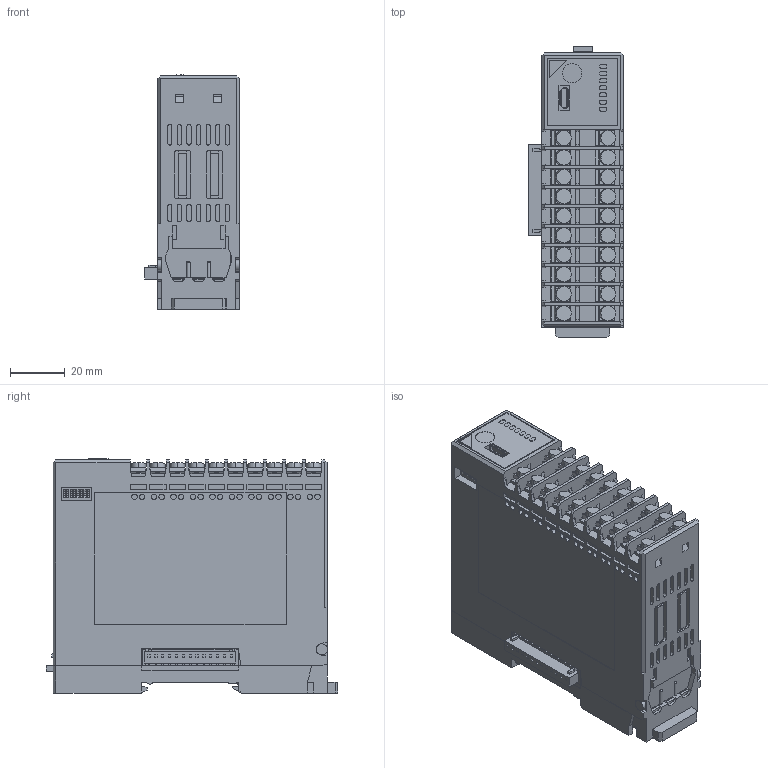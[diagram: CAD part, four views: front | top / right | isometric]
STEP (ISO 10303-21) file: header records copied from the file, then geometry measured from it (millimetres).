
FILE_DESCRIPTION (( 'STEP AP214' ), '1' );
FILE_NAME ('QAM1-40T_240416.STEP', '2024-04-16T11:50:52', ( '' ), ( '' ), 'SwSTEP 2.0', 'SolidWorks 2022', '' );
FILE_SCHEMA (( 'AUTOMOTIVE_DESIGN' ));
Length unit declared in the file: millimetre
Products named in the file (1): QAM1-40T_240416
Bounding box: 34.6 x 106.3 x 85.46 mm (x, y, z)
Volume: 237792.3 mm3; surface area: 51081.3 mm2
Topology: 22 solids, 22 shells, 2028 faces, 5145 edges, 3402 vertices
Faces by surface type: plane 1617, cylinder 407, torus 4
Entity records: 60606 total; most frequent: CARTESIAN_POINT 10672, ORIENTED_EDGE 10290, DIRECTION 9933, EDGE_CURVE 5145, LINE 4351, VECTOR 4351, VERTEX_POINT 3402, AXIS2_PLACEMENT_3D 2791
